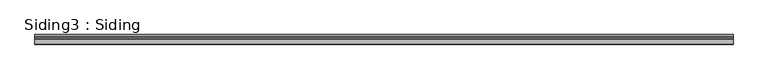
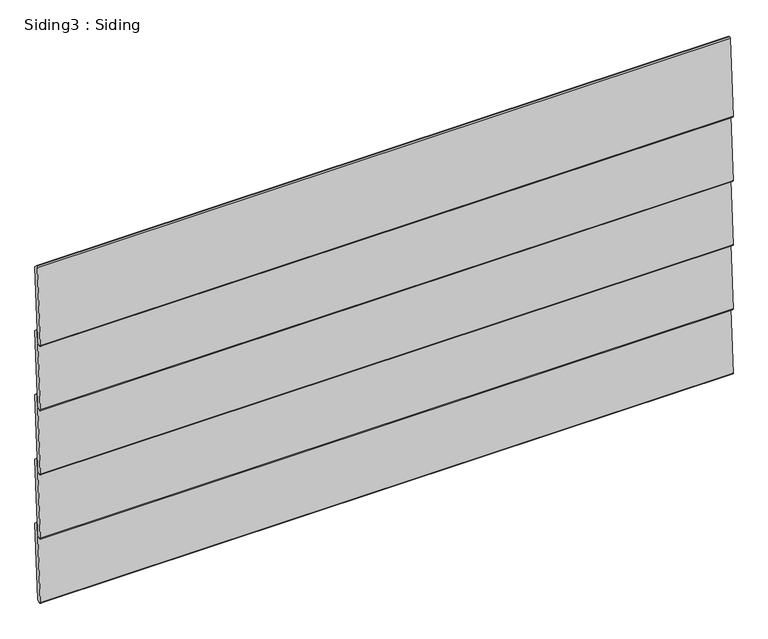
"""IFC4 building model written with IfcOpenShell, lengths in millimetres: proxy geometry, Siding3 : Siding."""

from ifc_helpers import new_model, si_unit, point, frame, frame_2d, origin, place, context, project, spatial, polyline, circle_curve, trimmed, segment, composite_curve, outline, extrude, source, transform, mapped, element, save


def siding3_siding_c55cce45(model_context):
    return source(origin(), model_context, "Body", "SweptSolid", [
        extrude(outline(composite_curve([segment(trimmed(circle_curve(frame_2d((33663.6718498, 613.6895863)), 2.1075694), [point((33661.5781282, 613.9307891))], [point((33663.7040621, 615.7969095))], False, "CARTESIAN"), True, "CONTINUOUS"), segment(polyline([(33663.7040621, 615.7969095), (33665.7000892, 615.6670028), (33669.43233, 611.4151351), (33660.3182392, 471.3764062), (33656.0663715, 467.6441654), (33654.0703444, 467.7740721)]), True, "CONTINUOUS"), segment(trimmed(circle_curve(frame_2d((33654.3140531, 469.8699934)), 2.1100426), [point((33654.0703444, 467.7740721))], [point((33652.204224, 469.900006))], False, "CARTESIAN"), True, "CONTINUOUS"), segment(polyline([(33652.204224, 469.900006), (33661.5781282, 613.9307891)]), True, "CONTINUOUS")], self_intersect=False)), frame((4653.1820282, 0.0, 0.0), z_axis=(1.0, 0.0, 0.0), x_axis=(0.0, 1.0, 0.0)), (0.0, 0.0, 1.0), 1257.3),
        extrude(outline(composite_curve([segment(trimmed(circle_curve(frame_2d((33663.6718498, 490.4934983)), 2.1075694), [point((33661.5781282, 490.7347011))], [point((33663.7040621, 492.6008215))], False, "CARTESIAN"), True, "CONTINUOUS"), segment(polyline([(33663.7040621, 492.6008215), (33665.7000892, 492.4709148), (33669.43233, 488.2190471), (33660.3182392, 348.1803182), (33656.0663715, 344.4480774), (33654.0703444, 344.5779842)]), True, "CONTINUOUS"), segment(trimmed(circle_curve(frame_2d((33654.3140531, 346.6739054)), 2.1100426), [point((33654.0703444, 344.5779842))], [point((33652.204224, 346.703918))], False, "CARTESIAN"), True, "CONTINUOUS"), segment(polyline([(33652.204224, 346.703918), (33661.5781282, 490.7347011)]), True, "CONTINUOUS")], self_intersect=False)), frame((4653.1820282, 0.0, 0.0), z_axis=(1.0, 0.0, 0.0), x_axis=(0.0, 1.0, 0.0)), (0.0, 0.0, 1.0), 1257.3),
        extrude(outline(composite_curve([segment(trimmed(circle_curve(frame_2d((33663.6718498, 367.2974103)), 2.1075694), [point((33661.5781282, 367.5386131))], [point((33663.7040621, 369.4047335))], False, "CARTESIAN"), True, "CONTINUOUS"), segment(polyline([(33663.7040621, 369.4047335), (33665.7000892, 369.2748268), (33669.43233, 365.0229591), (33660.3182392, 224.9842302), (33656.0663715, 221.2519894), (33654.0703444, 221.3818962)]), True, "CONTINUOUS"), segment(trimmed(circle_curve(frame_2d((33654.3140531, 223.4778174)), 2.1100426), [point((33654.0703444, 221.3818962))], [point((33652.204224, 223.50783))], False, "CARTESIAN"), True, "CONTINUOUS"), segment(polyline([(33652.204224, 223.50783), (33661.5781282, 367.5386131)]), True, "CONTINUOUS")], self_intersect=False)), frame((4653.1820282, 0.0, 0.0), z_axis=(1.0, 0.0, 0.0), x_axis=(0.0, 1.0, 0.0)), (0.0, 0.0, 1.0), 1257.3),
        extrude(outline(composite_curve([segment(trimmed(circle_curve(frame_2d((33663.6718498, 244.1013223)), 2.1075694), [point((33661.5781282, 244.3425251))], [point((33663.7040621, 246.2086455))], False, "CARTESIAN"), True, "CONTINUOUS"), segment(polyline([(33663.7040621, 246.2086455), (33665.7000892, 246.0787388), (33669.43233, 241.8268711), (33660.3182392, 101.7881423), (33656.0663715, 98.0559014), (33654.0703444, 98.1858082)]), True, "CONTINUOUS"), segment(trimmed(circle_curve(frame_2d((33654.3140531, 100.2817294)), 2.1100426), [point((33654.0703444, 98.1858082))], [point((33652.204224, 100.311742))], False, "CARTESIAN"), True, "CONTINUOUS"), segment(polyline([(33652.204224, 100.311742), (33661.5781282, 244.3425251)]), True, "CONTINUOUS")], self_intersect=False)), frame((4653.1820282, 0.0, 0.0), z_axis=(1.0, 0.0, 0.0), x_axis=(0.0, 1.0, 0.0)), (0.0, 0.0, 1.0), 1257.3),
        extrude(outline(composite_curve([segment(trimmed(circle_curve(frame_2d((33663.6718498, 120.9052343)), 2.1075694), [point((33661.5781282, 121.1464371))], [point((33663.7040621, 123.0125575))], False, "CARTESIAN"), True, "CONTINUOUS"), segment(polyline([(33663.7040621, 123.0125575), (33665.7000892, 122.8826508), (33669.43233, 118.6307831), (33660.3182392, -21.4079457), (33656.0663715, -25.1401866), (33654.0703444, -25.0102798)]), True, "CONTINUOUS"), segment(trimmed(circle_curve(frame_2d((33654.3140531, -22.9143586)), 2.1100426), [point((33654.0703444, -25.0102798))], [point((33652.204224, -22.884346))], False, "CARTESIAN"), True, "CONTINUOUS"), segment(polyline([(33652.204224, -22.884346), (33661.5781282, 121.1464371)]), True, "CONTINUOUS")], self_intersect=False)), frame((4653.1820282, 0.0, 0.0), z_axis=(1.0, 0.0, 0.0), x_axis=(0.0, 1.0, 0.0)), (0.0, 0.0, 1.0), 1257.3),
    ])


if __name__ == "__main__":
    model = new_model("IFC4")
    model_context = context("Model", 3, world=origin())
    ifc_project = project(units=[si_unit("LENGTHUNIT", "METRE", prefix="MILLI")], contexts=[model_context])
    site = spatial("IfcSite", under=ifc_project)
    building = spatial("IfcBuilding", under=site)
    placement = place(None, origin())
    siding3_siding_shape = siding3_siding_c55cce45(model_context)
    element("IfcBuildingElementProxy", 1, Name="Siding3 : Siding", ObjectType="Siding3 : Siding", at=placement, inside=building, context=model_context, shape_type="MappedRepresentation", body=[
        mapped(siding3_siding_shape, transform((0.0, 0.0, 0.0), x_axis=(1.0, 0.0, 0.0), y_axis=(0.0, 1.0, 0.0), z_axis=(0.0, 0.0, 1.0))),
    ])
    save(model, "model.ifc")
